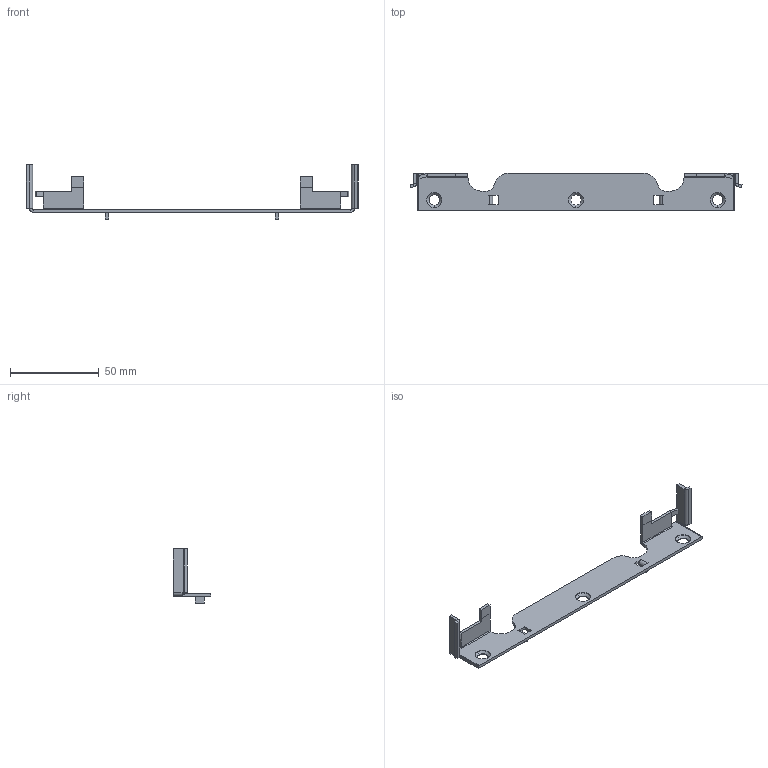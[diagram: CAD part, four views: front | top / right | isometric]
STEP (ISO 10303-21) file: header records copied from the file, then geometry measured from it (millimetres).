
FILE_DESCRIPTION (( 'STEP AP214' ), '1' );
FILE_NAME ('Traversenverbinder_oben.step', '2010-10-19T14:24:26', ( 'grass' ), ( '' ), 'SwSTEP 2.0', 'SolidWorks 2010', '' );
FILE_SCHEMA (( 'AUTOMOTIVE_DESIGN' ));
Length unit declared in the file: millimetre
Products named in the file (1): Traversenverbinder_oben
Bounding box: 187.51 x 21 x 30.75 mm (x, y, z)
Volume: 7685.2 mm3; surface area: 10173.4 mm2
Topology: 1 solids, 1 shells, 154 faces, 374 edges, 222 vertices
Faces by surface type: plane 100, cylinder 44, cone 6, bspline 4
Entity records: 4614 total; most frequent: CARTESIAN_POINT 973, ORIENTED_EDGE 748, DIRECTION 744, EDGE_CURVE 374, VECTOR 266, LINE 266, AXIS2_PLACEMENT_3D 239, VERTEX_POINT 222
